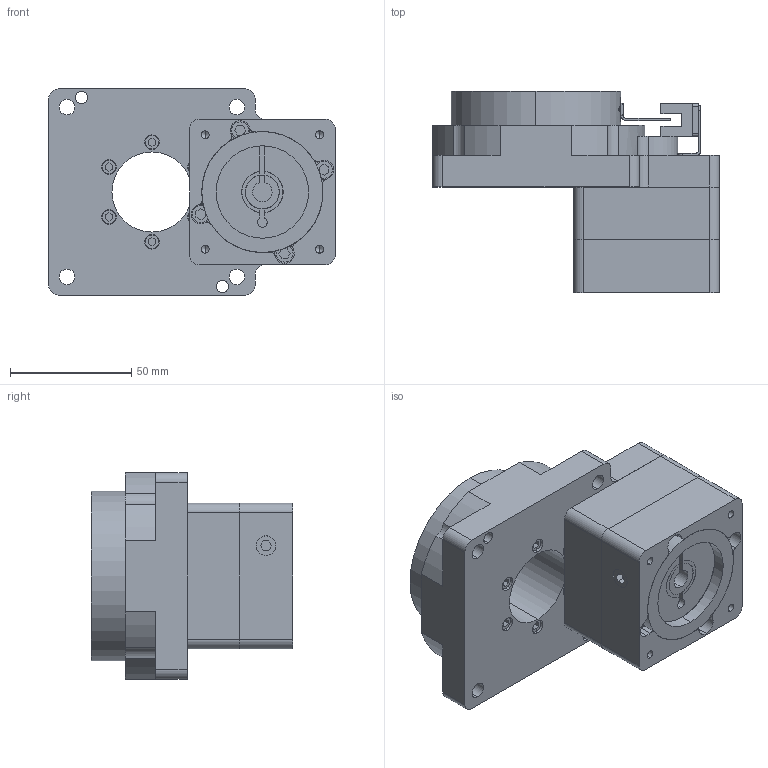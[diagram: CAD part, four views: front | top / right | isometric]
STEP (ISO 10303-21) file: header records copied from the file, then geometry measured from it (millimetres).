
FILE_DESCRIPTION(('Open CASCADE Model'),'2;1');
FILE_NAME('Open CASCADE Shape Model','2026-10-11T03:00:01',('Author'),( 'Open CASCADE'),'Open CASCADE STEP processor 7.8','Open CASCADE 7.8' ,'Unknown');
FILE_SCHEMA(('AUTOMOTIVE_DESIGN { 1 0 10303 214 1 1 1 1 }'));
Length unit declared in the file: millimetre
Products named in the file (3): NT85-05(配57步进 输入8-32 38.1-5 4-M4-47.14-47.14); NT85-05(配57步进 输入8-32 38.1-5 4-M4-47.14-47.14)-01; NT85-05(配57步进 输入8-32 38.1-5 4-M4-47.14-47.14)-02
Assembly tree (2 placements, depth 2):
  NT85-05(配57步进 输入8-32 38.1-5 4-M4-47.14-47.14)
    NT85-05(配57步进 输入8-32 38.1-5 4-M4-47.14-47.14)-01
    NT85-05(配57步进 输入8-32 38.1-5 4-M4-47.14-47.14)-02
Bounding box: 118 x 83 x 85 mm (x, y, z)
Volume: 353404.6 mm3; surface area: 77128.1 mm2
Topology: 7 solids, 13 shells, 1109 faces, 3019 edges, 1976 vertices
Faces by surface type: plane 852, cylinder 221, cone 36
Entity records: 73542 total; most frequent: CARTESIAN_POINT 15535, DIRECTION 10185, LINE 6775, VECTOR 6775, ORIENTED_EDGE 5966, PCURVE 5966, DEFINITIONAL_REPRESENTATION 5966, EDGE_CURVE 2983
